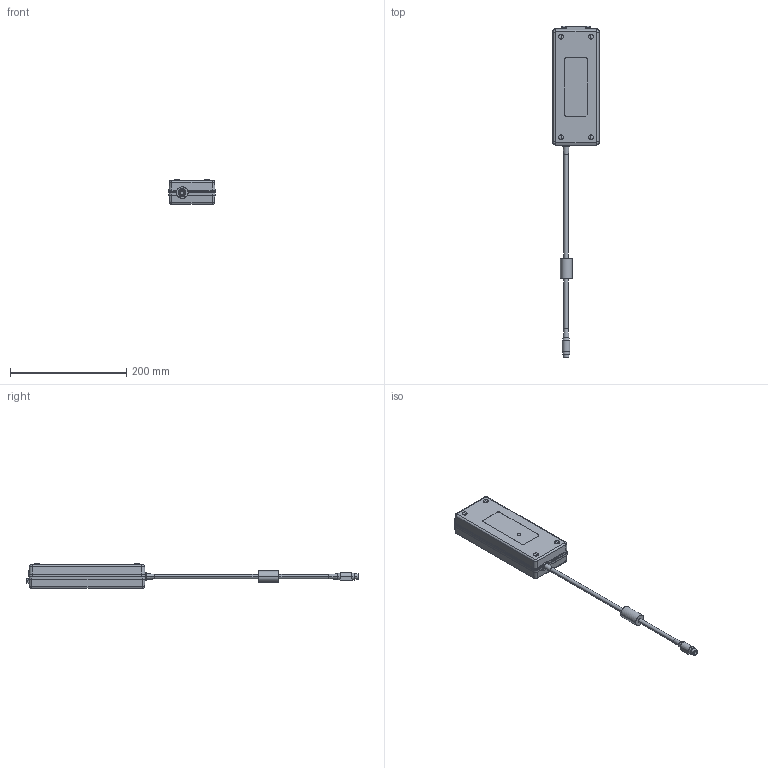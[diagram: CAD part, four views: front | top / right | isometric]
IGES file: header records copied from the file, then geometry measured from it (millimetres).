
Start section: SolidWorks IGES file using analytic representation for surfaces
Global section: file name: C:\Users\Leonard Torio\Desktop\AHM 3D STEP FILES\IGES\AHM180PSXX IGES.IGS; native system: SolidWorks 2011; preprocessor: SolidWorks 2011; author: Leonard Torio; date: 120116.094723; units: millimetre
Bounding box: 80 x 571.17 x 42.6 mm (x, y, z)
Surface area: 139700.3 mm2 (no closed solid volume)
Topology: 0 solids, 0 shells, 1292 faces, 11621 edges, 11585 vertices
Faces by surface type: bspline 791, revolution 501
